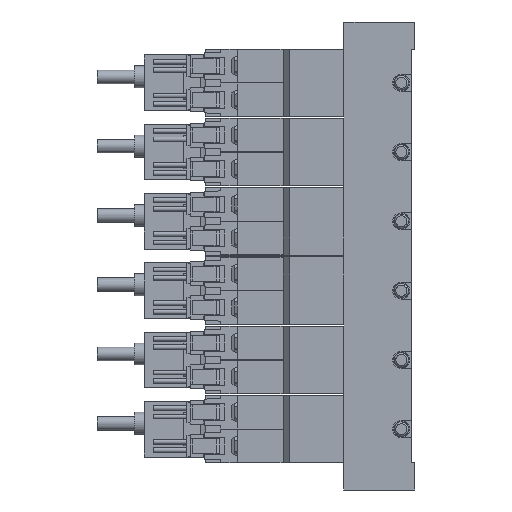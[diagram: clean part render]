
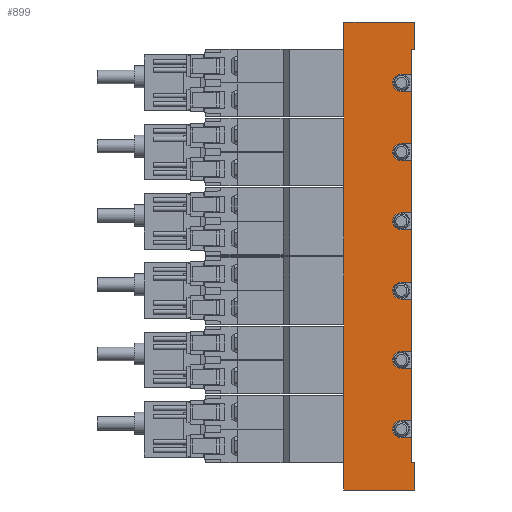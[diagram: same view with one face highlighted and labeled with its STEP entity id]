
A CAD part, left-side view. The second image highlights one B-rep face of the part: STEP entity #899.
In plain terms, the highlighted planar face has unit normal (-1, 0, 0) as drawn and (1, 0, 0) by its records, which use the part's own axes.
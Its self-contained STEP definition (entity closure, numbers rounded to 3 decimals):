
#899=ADVANCED_FACE('',(#1872),#1873,.F.);
#1872=FACE_OUTER_BOUND('',#3031,.T.);
#1873=PLANE('',#3032);
#3031=EDGE_LOOP('',(#6483,#6484,#6485,#6486,#6487,#6488,#6489,#6490,#6491,#6492,#6493,#6494,#6495,#6496,#6497,#6498,#6499,#6500,#6501,#6502,#6503,#6504,#6505,#6506,#6507,#6508,#6509,#6510,#6511,#6512,#6513,#6514));
#3032=AXIS2_PLACEMENT_3D('',#6515,#6516,#6517);
#6483=ORIENTED_EDGE('',*,*,#8190,.T.);
#6484=ORIENTED_EDGE('',*,*,#8191,.T.);
#6485=ORIENTED_EDGE('',*,*,#8192,.F.);
#6486=ORIENTED_EDGE('',*,*,#8193,.F.);
#6487=ORIENTED_EDGE('',*,*,#8194,.T.);
#6488=ORIENTED_EDGE('',*,*,#8195,.T.);
#6489=ORIENTED_EDGE('',*,*,#8196,.T.);
#6490=ORIENTED_EDGE('',*,*,#8197,.F.);
#6491=ORIENTED_EDGE('',*,*,#8198,.F.);
#6492=ORIENTED_EDGE('',*,*,#8148,.F.);
#6493=ORIENTED_EDGE('',*,*,#8199,.T.);
#6494=ORIENTED_EDGE('',*,*,#8200,.F.);
#6495=ORIENTED_EDGE('',*,*,#8201,.F.);
#6496=ORIENTED_EDGE('',*,*,#8202,.F.);
#6497=ORIENTED_EDGE('',*,*,#8203,.T.);
#6498=ORIENTED_EDGE('',*,*,#8204,.F.);
#6499=ORIENTED_EDGE('',*,*,#8205,.F.);
#6500=ORIENTED_EDGE('',*,*,#8137,.F.);
#6501=ORIENTED_EDGE('',*,*,#8206,.T.);
#6502=ORIENTED_EDGE('',*,*,#8179,.F.);
#6503=ORIENTED_EDGE('',*,*,#8207,.F.);
#6504=ORIENTED_EDGE('',*,*,#8208,.F.);
#6505=ORIENTED_EDGE('',*,*,#8209,.T.);
#6506=ORIENTED_EDGE('',*,*,#8210,.F.);
#6507=ORIENTED_EDGE('',*,*,#8211,.F.);
#6508=ORIENTED_EDGE('',*,*,#8155,.F.);
#6509=ORIENTED_EDGE('',*,*,#8212,.T.);
#6510=ORIENTED_EDGE('',*,*,#8213,.F.);
#6511=ORIENTED_EDGE('',*,*,#8186,.F.);
#6512=ORIENTED_EDGE('',*,*,#8214,.F.);
#6513=ORIENTED_EDGE('',*,*,#8215,.T.);
#6514=ORIENTED_EDGE('',*,*,#8216,.T.);
#6515=CARTESIAN_POINT('',(17.5,1.0,69.25));
#6516=DIRECTION('',(-1.0,0.0,0.0));
#6517=DIRECTION('',(0.0,0.0,1.0));
#8137=EDGE_CURVE('',#9972,#9973,#9974,.T.);
#8148=EDGE_CURVE('',#9994,#9995,#9996,.T.);
#8155=EDGE_CURVE('',#10007,#10008,#10009,.T.);
#8179=EDGE_CURVE('',#10054,#10055,#10056,.T.);
#8186=EDGE_CURVE('',#10065,#10067,#10068,.T.);
#8190=EDGE_CURVE('',#10074,#10075,#10076,.T.);
#8191=EDGE_CURVE('',#10075,#10077,#10078,.T.);
#8192=EDGE_CURVE('',#10079,#10077,#10080,.T.);
#8193=EDGE_CURVE('',#10081,#10079,#10082,.T.);
#8194=EDGE_CURVE('',#10081,#10083,#10084,.T.);
#8195=EDGE_CURVE('',#10083,#10085,#10086,.T.);
#8196=EDGE_CURVE('',#10085,#10087,#10088,.T.);
#8197=EDGE_CURVE('',#10089,#10087,#10090,.T.);
#8198=EDGE_CURVE('',#9995,#10089,#10091,.T.);
#8199=EDGE_CURVE('',#9994,#10092,#10093,.T.);
#8200=EDGE_CURVE('',#10094,#10092,#10095,.T.);
#8201=EDGE_CURVE('',#10096,#10094,#10097,.T.);
#8202=EDGE_CURVE('',#10098,#10096,#10099,.T.);
#8203=EDGE_CURVE('',#10098,#10100,#10101,.T.);
#8204=EDGE_CURVE('',#10102,#10100,#10103,.T.);
#8205=EDGE_CURVE('',#9973,#10102,#10104,.T.);
#8206=EDGE_CURVE('',#9972,#10055,#10105,.T.);
#8207=EDGE_CURVE('',#10106,#10054,#10107,.T.);
#8208=EDGE_CURVE('',#10108,#10106,#10109,.T.);
#8209=EDGE_CURVE('',#10108,#10110,#10111,.T.);
#8210=EDGE_CURVE('',#10112,#10110,#10113,.T.);
#8211=EDGE_CURVE('',#10008,#10112,#10114,.T.);
#8212=EDGE_CURVE('',#10007,#10115,#10116,.T.);
#8213=EDGE_CURVE('',#10067,#10115,#10117,.T.);
#8214=EDGE_CURVE('',#10118,#10065,#10119,.T.);
#8215=EDGE_CURVE('',#10118,#10120,#10121,.T.);
#8216=EDGE_CURVE('',#10120,#10074,#10122,.T.);
#9972=VERTEX_POINT('',#12994);
#9973=VERTEX_POINT('',#12995);
#9974=LINE('',#12996,#12997);
#9994=VERTEX_POINT('',#13021);
#9995=VERTEX_POINT('',#13022);
#9996=LINE('',#13023,#13024);
#10007=VERTEX_POINT('',#13039);
#10008=VERTEX_POINT('',#13040);
#10009=LINE('',#13041,#13042);
#10054=VERTEX_POINT('',#13315);
#10055=VERTEX_POINT('',#13316);
#10056=LINE('',#13317,#13318);
#10065=VERTEX_POINT('',#13331);
#10067=VERTEX_POINT('',#13334);
#10068=CIRCLE('',#13335,2.5);
#10074=VERTEX_POINT('',#13342);
#10075=VERTEX_POINT('',#13343);
#10076=LINE('',#13344,#13345);
#10077=VERTEX_POINT('',#13346);
#10078=LINE('',#13347,#13348);
#10079=VERTEX_POINT('',#13349);
#10080=LINE('',#13350,#13351);
#10081=VERTEX_POINT('',#13352);
#10082=LINE('',#13353,#13354);
#10083=VERTEX_POINT('',#13355);
#10084=LINE('',#13356,#13357);
#10085=VERTEX_POINT('',#13358);
#10086=LINE('',#13359,#13360);
#10087=VERTEX_POINT('',#13361);
#10088=LINE('',#13362,#13363);
#10089=VERTEX_POINT('',#13364);
#10090=LINE('',#13365,#13366);
#10091=CIRCLE('',#13367,2.5);
#10092=VERTEX_POINT('',#13368);
#10093=LINE('',#13369,#13370);
#10094=VERTEX_POINT('',#13371);
#10095=LINE('',#13372,#13373);
#10096=VERTEX_POINT('',#13374);
#10097=CIRCLE('',#13375,2.5);
#10098=VERTEX_POINT('',#13376);
#10099=LINE('',#13377,#13378);
#10100=VERTEX_POINT('',#13379);
#10101=LINE('',#13380,#13381);
#10102=VERTEX_POINT('',#13382);
#10103=LINE('',#13383,#13384);
#10104=CIRCLE('',#13385,2.5);
#10105=LINE('',#13386,#13387);
#10106=VERTEX_POINT('',#13388);
#10107=CIRCLE('',#13389,2.5);
#10108=VERTEX_POINT('',#13390);
#10109=LINE('',#13391,#13392);
#10110=VERTEX_POINT('',#13393);
#10111=LINE('',#13394,#13395);
#10112=VERTEX_POINT('',#13396);
#10113=LINE('',#13397,#13398);
#10114=CIRCLE('',#13399,2.5);
#10115=VERTEX_POINT('',#13400);
#10116=LINE('',#13401,#13402);
#10117=LINE('',#13403,#13404);
#10118=VERTEX_POINT('',#13405);
#10119=LINE('',#13406,#13407);
#10120=VERTEX_POINT('',#13408);
#10121=LINE('',#13409,#13410);
#10122=LINE('',#13411,#13412);
#12994=CARTESIAN_POINT('',(17.5,1.0,7.75));
#12995=CARTESIAN_POINT('',(17.5,4.0,7.75));
#12996=CARTESIAN_POINT('',(17.5,1.0,7.75));
#12997=VECTOR('',#14900,1.0);
#13021=CARTESIAN_POINT('',(17.5,1.0,48.75));
#13022=CARTESIAN_POINT('',(17.5,4.0,48.75));
#13023=CARTESIAN_POINT('',(17.5,1.0,48.75));
#13024=VECTOR('',#14923,1.0);
#13039=CARTESIAN_POINT('',(17.5,1.0,-33.25));
#13040=CARTESIAN_POINT('',(17.5,4.0,-33.25));
#13041=CARTESIAN_POINT('',(17.5,1.0,-33.25));
#13042=VECTOR('',#14934,1.0);
#13315=CARTESIAN_POINT('',(17.5,4.0,-7.75));
#13316=CARTESIAN_POINT('',(17.5,1.0,-7.75));
#13317=CARTESIAN_POINT('',(17.5,1.0,-7.75));
#13318=VECTOR('',#14973,1.0);
#13331=CARTESIAN_POINT('',(17.5,4.0,-53.75));
#13334=CARTESIAN_POINT('',(17.5,4.0,-48.75));
#13335=AXIS2_PLACEMENT_3D('',#14982,#14983,#14984);
#13342=CARTESIAN_POINT('',(17.5,0.0,-61.25));
#13343=CARTESIAN_POINT('',(17.5,0.0,-69.25));
#13344=CARTESIAN_POINT('',(17.5,0.0,-61.25));
#13345=VECTOR('',#14992,1.0);
#13346=CARTESIAN_POINT('',(17.5,21.0,-69.25));
#13347=CARTESIAN_POINT('',(17.5,1.0,-69.25));
#13348=VECTOR('',#14993,1.0);
#13349=CARTESIAN_POINT('',(17.5,21.0,69.25));
#13350=CARTESIAN_POINT('',(17.5,21.0,69.25));
#13351=VECTOR('',#14994,1.0);
#13352=CARTESIAN_POINT('',(17.5,0.0,69.25));
#13353=CARTESIAN_POINT('',(17.5,1.0,69.25));
#13354=VECTOR('',#14995,1.0);
#13355=CARTESIAN_POINT('',(17.5,0.0,61.25));
#13356=CARTESIAN_POINT('',(17.5,0.0,69.25));
#13357=VECTOR('',#14996,1.0);
#13358=CARTESIAN_POINT('',(17.5,1.0,61.25));
#13359=CARTESIAN_POINT('',(17.5,0.0,61.25));
#13360=VECTOR('',#14997,1.0);
#13361=CARTESIAN_POINT('',(17.5,1.0,53.75));
#13362=CARTESIAN_POINT('',(17.5,1.0,69.25));
#13363=VECTOR('',#14998,1.0);
#13364=CARTESIAN_POINT('',(17.5,4.0,53.75));
#13365=CARTESIAN_POINT('',(17.5,1.0,53.75));
#13366=VECTOR('',#14999,1.0);
#13367=AXIS2_PLACEMENT_3D('',#15000,#15001,#15002);
#13368=CARTESIAN_POINT('',(17.5,1.0,33.25));
#13369=CARTESIAN_POINT('',(17.5,1.0,69.25));
#13370=VECTOR('',#15003,1.0);
#13371=CARTESIAN_POINT('',(17.5,4.0,33.25));
#13372=CARTESIAN_POINT('',(17.5,1.0,33.25));
#13373=VECTOR('',#15004,1.0);
#13374=CARTESIAN_POINT('',(17.5,4.0,28.25));
#13375=AXIS2_PLACEMENT_3D('',#15005,#15006,#15007);
#13376=CARTESIAN_POINT('',(17.5,1.0,28.25));
#13377=CARTESIAN_POINT('',(17.5,1.0,28.25));
#13378=VECTOR('',#15008,1.0);
#13379=CARTESIAN_POINT('',(17.5,1.0,12.75));
#13380=CARTESIAN_POINT('',(17.5,1.0,69.25));
#13381=VECTOR('',#15009,1.0);
#13382=CARTESIAN_POINT('',(17.5,4.0,12.75));
#13383=CARTESIAN_POINT('',(17.5,1.0,12.75));
#13384=VECTOR('',#15010,1.0);
#13385=AXIS2_PLACEMENT_3D('',#15011,#15012,#15013);
#13386=CARTESIAN_POINT('',(17.5,1.0,69.25));
#13387=VECTOR('',#15014,1.0);
#13388=CARTESIAN_POINT('',(17.5,4.0,-12.75));
#13389=AXIS2_PLACEMENT_3D('',#15015,#15016,#15017);
#13390=CARTESIAN_POINT('',(17.5,1.0,-12.75));
#13391=CARTESIAN_POINT('',(17.5,1.0,-12.75));
#13392=VECTOR('',#15018,1.0);
#13393=CARTESIAN_POINT('',(17.5,1.0,-28.25));
#13394=CARTESIAN_POINT('',(17.5,1.0,69.25));
#13395=VECTOR('',#15019,1.0);
#13396=CARTESIAN_POINT('',(17.5,4.0,-28.25));
#13397=CARTESIAN_POINT('',(17.5,1.0,-28.25));
#13398=VECTOR('',#15020,1.0);
#13399=AXIS2_PLACEMENT_3D('',#15021,#15022,#15023);
#13400=CARTESIAN_POINT('',(17.5,1.0,-48.75));
#13401=CARTESIAN_POINT('',(17.5,1.0,69.25));
#13402=VECTOR('',#15024,1.0);
#13403=CARTESIAN_POINT('',(17.5,1.0,-48.75));
#13404=VECTOR('',#15025,1.0);
#13405=CARTESIAN_POINT('',(17.5,1.0,-53.75));
#13406=CARTESIAN_POINT('',(17.5,1.0,-53.75));
#13407=VECTOR('',#15026,1.0);
#13408=CARTESIAN_POINT('',(17.5,1.0,-61.25));
#13409=CARTESIAN_POINT('',(17.5,1.0,69.25));
#13410=VECTOR('',#15027,1.0);
#13411=CARTESIAN_POINT('',(17.5,4.0,-61.25));
#13412=VECTOR('',#15028,1.0);
#14900=DIRECTION('',(0.0,1.0,0.0));
#14923=DIRECTION('',(0.0,1.0,0.0));
#14934=DIRECTION('',(0.0,1.0,0.0));
#14973=DIRECTION('',(0.0,-1.0,0.0));
#14982=CARTESIAN_POINT('',(17.5,4.0,-51.25));
#14983=DIRECTION('',(1.0,0.0,-0.0));
#14984=DIRECTION('',(0.0,0.0,1.0));
#14992=DIRECTION('',(0.0,0.0,-1.0));
#14993=DIRECTION('',(0.0,1.0,0.0));
#14994=DIRECTION('',(0.0,0.0,-1.0));
#14995=DIRECTION('',(0.0,1.0,0.0));
#14996=DIRECTION('',(0.0,0.0,-1.0));
#14997=DIRECTION('',(0.0,1.0,0.0));
#14998=DIRECTION('',(0.0,0.0,-1.0));
#14999=DIRECTION('',(0.0,-1.0,0.0));
#15000=CARTESIAN_POINT('',(17.5,4.0,51.25));
#15001=DIRECTION('',(1.0,0.0,-0.0));
#15002=DIRECTION('',(0.0,0.0,1.0));
#15003=DIRECTION('',(0.0,0.0,-1.0));
#15004=DIRECTION('',(0.0,-1.0,0.0));
#15005=CARTESIAN_POINT('',(17.5,4.0,30.75));
#15006=DIRECTION('',(1.0,0.0,-0.0));
#15007=DIRECTION('',(0.0,0.0,1.0));
#15008=DIRECTION('',(0.0,1.0,0.0));
#15009=DIRECTION('',(0.0,0.0,-1.0));
#15010=DIRECTION('',(0.0,-1.0,0.0));
#15011=CARTESIAN_POINT('',(17.5,4.0,10.25));
#15012=DIRECTION('',(1.0,0.0,-0.0));
#15013=DIRECTION('',(0.0,0.0,1.0));
#15014=DIRECTION('',(0.0,0.0,-1.0));
#15015=CARTESIAN_POINT('',(17.5,4.0,-10.25));
#15016=DIRECTION('',(1.0,0.0,-0.0));
#15017=DIRECTION('',(0.0,0.0,1.0));
#15018=DIRECTION('',(0.0,1.0,0.0));
#15019=DIRECTION('',(0.0,0.0,-1.0));
#15020=DIRECTION('',(0.0,-1.0,0.0));
#15021=CARTESIAN_POINT('',(17.5,4.0,-30.75));
#15022=DIRECTION('',(1.0,0.0,-0.0));
#15023=DIRECTION('',(0.0,0.0,1.0));
#15024=DIRECTION('',(0.0,0.0,-1.0));
#15025=DIRECTION('',(0.0,-1.0,0.0));
#15026=DIRECTION('',(0.0,1.0,0.0));
#15027=DIRECTION('',(0.0,0.0,-1.0));
#15028=DIRECTION('',(0.0,-1.0,0.0));
